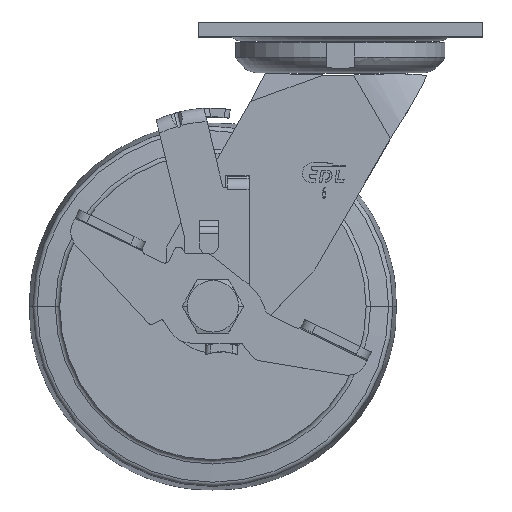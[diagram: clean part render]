
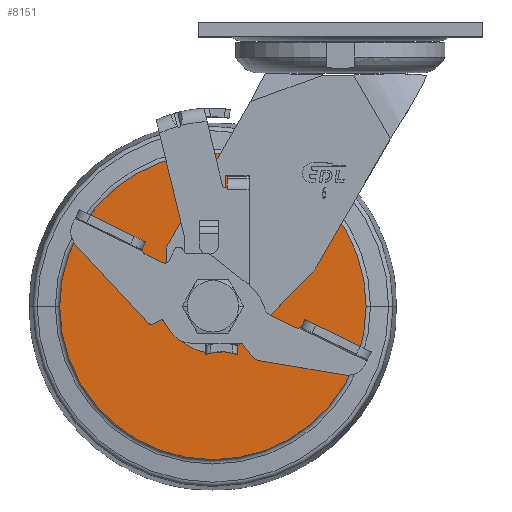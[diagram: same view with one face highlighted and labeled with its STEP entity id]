
A CAD part, top view. The second image highlights one B-rep face of the part: STEP entity #8151.
In plain terms, the highlighted planar face has unit normal (0, 0, 1) as drawn and (-1, 0, 0) by its records, which use the part's own axes.
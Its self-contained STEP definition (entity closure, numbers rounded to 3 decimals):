
#7686=CARTESIAN_POINT('',(-25.,0.,0.));
#7687=DIRECTION('',(-1.,0.,0.));
#7688=DIRECTION('',(0.,1.,0.));
#7689=AXIS2_PLACEMENT_3D('',#7686,#7687,#7688);
#7691=CARTESIAN_POINT('',(-25.,0.,0.));
#7692=DIRECTION('',(1.,0.,0.));
#7693=DIRECTION('',(0.,1.,0.));
#7694=AXIS2_PLACEMENT_3D('',#7691,#7692,#7693);
#7696=CARTESIAN_POINT('',(-25.,0.,0.));
#7697=DIRECTION('',(1.,0.,0.));
#7698=DIRECTION('',(0.,1.,0.));
#7699=AXIS2_PLACEMENT_3D('',#7696,#7697,#7698);
#7709=CARTESIAN_POINT('',(-25.,0.,0.));
#7710=DIRECTION('',(-1.,0.,0.));
#7711=DIRECTION('',(0.,1.,0.));
#7712=AXIS2_PLACEMENT_3D('',#7709,#7710,#7711);
#7840=CARTESIAN_POINT('',(-25.,62.5,0.));
#7841=VERTEX_POINT('',#7840);
#7842=CARTESIAN_POINT('',(-25.,12.,0.));
#7844=VERTEX_POINT('',#7842);
#7872=CARTESIAN_POINT('',(-25.,-62.5,0.));
#7873=VERTEX_POINT('',#7872);
#7874=CARTESIAN_POINT('',(-25.,-12.,0.));
#7876=VERTEX_POINT('',#7874);
#8136=CARTESIAN_POINT('',(-25.,0.,0.));
#8137=DIRECTION('',(1.,0.,0.));
#8138=DIRECTION('',(0.,-1.,0.));
#8139=AXIS2_PLACEMENT_3D('',#8136,#8137,#8138);
#8140=PLANE('',#8139);
#8141=ORIENTED_EDGE('',*,*,#8129,.F.);
#8142=ORIENTED_EDGE('',*,*,#8118,.T.);
#8143=EDGE_LOOP('',(#8141,#8142));
#8144=FACE_OUTER_BOUND('',#8143,.F.);
#8146=ORIENTED_EDGE('',*,*,#8145,.F.);
#8148=ORIENTED_EDGE('',*,*,#8147,.T.);
#8149=EDGE_LOOP('',(#8146,#8148));
#8150=FACE_BOUND('',#8149,.F.);
#7690=CIRCLE('',#7689,62.5);
#7695=CIRCLE('',#7694,62.5);
#7700=CIRCLE('',#7699,12.);
#7713=CIRCLE('',#7712,12.);
#8118=EDGE_CURVE('',#7841,#7873,#7695,.T.);
#8129=EDGE_CURVE('',#7841,#7873,#7690,.T.);
#8145=EDGE_CURVE('',#7844,#7876,#7700,.T.);
#8147=EDGE_CURVE('',#7844,#7876,#7713,.T.);
#8151=ADVANCED_FACE('',(#8144,#8150),#8140,.F.);
